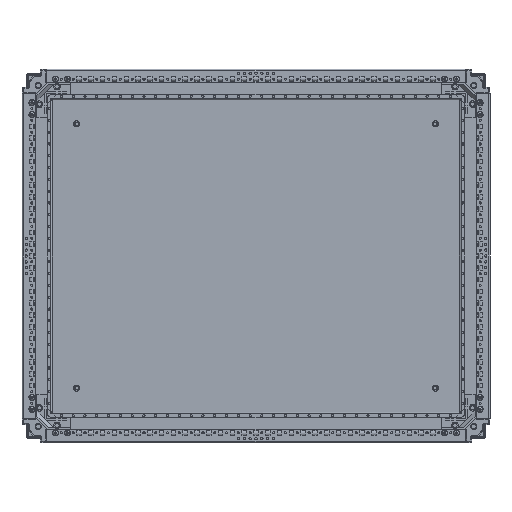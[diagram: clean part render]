
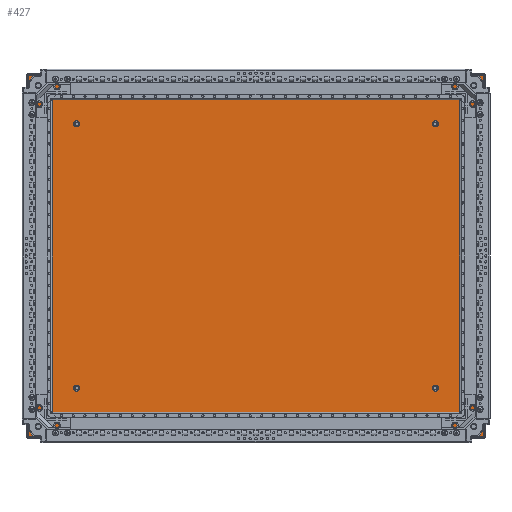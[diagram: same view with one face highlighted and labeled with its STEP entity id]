
A CAD part, front view. The second image highlights one B-rep face of the part: STEP entity #427.
In plain terms, the highlighted planar face has unit normal (0, -1, 0).
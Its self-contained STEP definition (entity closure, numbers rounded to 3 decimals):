
#427=ADVANCED_FACE('',(#3374,#3376,#3378,#3380,#3382,#3384,#3386,#3388,#3390),#3392,
.T.);
#3374=FACE_BOUND('',#3375,.T.);
#3375=EDGE_LOOP('',(#25849,#25850,#25851,#25852));
#3376=FACE_BOUND('',#3377,.T.);
#3377=EDGE_LOOP('',(#25853));
#3378=FACE_BOUND('',#3379,.T.);
#3379=EDGE_LOOP('',(#25854));
#3380=FACE_BOUND('',#3381,.T.);
#3381=EDGE_LOOP('',(#25855));
#3382=FACE_BOUND('',#3383,.T.);
#3383=EDGE_LOOP('',(#25856));
#3384=FACE_BOUND('',#3385,.T.);
#3385=EDGE_LOOP('',(#25857));
#3386=FACE_BOUND('',#3387,.T.);
#3387=EDGE_LOOP('',(#25858));
#3388=FACE_BOUND('',#3389,.T.);
#3389=EDGE_LOOP('',(#25859));
#3390=FACE_BOUND('',#3391,.T.);
#3391=EDGE_LOOP('',(#25860));
#3392=PLANE('',#3393);
#3393=AXIS2_PLACEMENT_3D('',#3394,#3395,#3396);
#3394=CARTESIAN_POINT('',(0.,-1.4,0.));
#3395=DIRECTION('',(0.,-1.,0.));
#3396=DIRECTION('',(-1.,0.,0.));
#25849=ORIENTED_EDGE('',*,*,#38457,.F.);
#25850=ORIENTED_EDGE('',*,*,#38458,.F.);
#25851=ORIENTED_EDGE('',*,*,#38459,.F.);
#25852=ORIENTED_EDGE('',*,*,#38460,.F.);
#25853=ORIENTED_EDGE('',*,*,#38330,.T.);
#25854=ORIENTED_EDGE('',*,*,#38332,.F.);
#25855=ORIENTED_EDGE('',*,*,#38334,.T.);
#25856=ORIENTED_EDGE('',*,*,#38336,.F.);
#25857=ORIENTED_EDGE('',*,*,#38342,.T.);
#25858=ORIENTED_EDGE('',*,*,#38340,.T.);
#25859=ORIENTED_EDGE('',*,*,#38344,.T.);
#25860=ORIENTED_EDGE('',*,*,#38338,.T.);
#38330=EDGE_CURVE('',#44651,#44651,#44652,.T.);
#38332=EDGE_CURVE('',#44655,#44655,#44656,.T.);
#38334=EDGE_CURVE('',#44659,#44659,#44660,.T.);
#38336=EDGE_CURVE('',#44663,#44663,#44664,.T.);
#38338=EDGE_CURVE('',#44667,#44667,#44668,.T.);
#38340=EDGE_CURVE('',#44671,#44671,#44672,.T.);
#38342=EDGE_CURVE('',#44675,#44675,#44676,.T.);
#38344=EDGE_CURVE('',#44679,#44679,#44680,.T.);
#38457=EDGE_CURVE('',#44873,#44874,#44875,.T.);
#38458=EDGE_CURVE('',#44876,#44873,#44877,.T.);
#38459=EDGE_CURVE('',#44878,#44876,#44879,.T.);
#38460=EDGE_CURVE('',#44874,#44878,#44880,.T.);
#44651=VERTEX_POINT('',#55350);
#44652=CIRCLE('',#55351,0.5);
#44655=VERTEX_POINT('',#55360);
#44656=CIRCLE('',#55361,0.5);
#44659=VERTEX_POINT('',#55370);
#44660=CIRCLE('',#55371,0.5);
#44663=VERTEX_POINT('',#55380);
#44664=CIRCLE('',#55381,0.5);
#44667=VERTEX_POINT('',#55390);
#44668=CIRCLE('',#55391,10.);
#44671=VERTEX_POINT('',#55400);
#44672=CIRCLE('',#55401,10.);
#44675=VERTEX_POINT('',#55410);
#44676=CIRCLE('',#55411,10.);
#44679=VERTEX_POINT('',#55420);
#44680=CIRCLE('',#55421,10.);
#44873=VERTEX_POINT('',#55965);
#44874=VERTEX_POINT('',#55966);
#44875=LINE('',#55967,#55968);
#44876=VERTEX_POINT('',#55970);
#44877=LINE('',#55971,#55972);
#44878=VERTEX_POINT('',#55974);
#44879=LINE('',#55975,#55976);
#44880=LINE('',#55978,#55979);
#55350=CARTESIAN_POINT('',(379.5,-1.4,-280.));
#55351=AXIS2_PLACEMENT_3D('',#55352,#55353,#55354);
#55352=CARTESIAN_POINT('',(380.,-1.4,-280.));
#55353=DIRECTION('',(0.,1.,0.));
#55354=DIRECTION('',(-1.,0.,0.));
#55360=CARTESIAN_POINT('',(-380.5,-1.4,-280.));
#55361=AXIS2_PLACEMENT_3D('',#55362,#55363,#55364);
#55362=CARTESIAN_POINT('',(-380.,-1.4,-280.));
#55363=DIRECTION('',(0.,-1.,0.));
#55364=DIRECTION('',(1.,0.,0.));
#55370=CARTESIAN_POINT('',(-380.5,-1.4,280.));
#55371=AXIS2_PLACEMENT_3D('',#55372,#55373,#55374);
#55372=CARTESIAN_POINT('',(-380.,-1.4,280.));
#55373=DIRECTION('',(0.,1.,0.));
#55374=DIRECTION('',(-1.,0.,0.));
#55380=CARTESIAN_POINT('',(379.5,-1.4,280.));
#55381=AXIS2_PLACEMENT_3D('',#55382,#55383,#55384);
#55382=CARTESIAN_POINT('',(380.,-1.4,280.));
#55383=DIRECTION('',(0.,-1.,0.));
#55384=DIRECTION('',(1.,0.,0.));
#55390=CARTESIAN_POINT('',(-471.4,-1.4,-361.4));
#55391=AXIS2_PLACEMENT_3D('',#55392,#55393,#55394);
#55392=CARTESIAN_POINT('',(-461.4,-1.4,-361.4));
#55393=DIRECTION('',(0.,1.,0.));
#55394=DIRECTION('',(-1.,0.,0.));
#55400=CARTESIAN_POINT('',(451.4,-1.4,361.4));
#55401=AXIS2_PLACEMENT_3D('',#55402,#55403,#55404);
#55402=CARTESIAN_POINT('',(461.4,-1.4,361.4));
#55403=DIRECTION('',(0.,1.,0.));
#55404=DIRECTION('',(-1.,0.,0.));
#55410=CARTESIAN_POINT('',(-471.4,-1.4,361.4));
#55411=AXIS2_PLACEMENT_3D('',#55412,#55413,#55414);
#55412=CARTESIAN_POINT('',(-461.4,-1.4,361.4));
#55413=DIRECTION('',(0.,1.,0.));
#55414=DIRECTION('',(-1.,0.,0.));
#55420=CARTESIAN_POINT('',(451.4,-1.4,-361.4));
#55421=AXIS2_PLACEMENT_3D('',#55422,#55423,#55424);
#55422=CARTESIAN_POINT('',(461.4,-1.4,-361.4));
#55423=DIRECTION('',(0.,1.,0.));
#55424=DIRECTION('',(-1.,0.,0.));
#55965=CARTESIAN_POINT('',(-483.,-1.4,-383.));
#55966=CARTESIAN_POINT('',(-483.,-1.4,383.));
#55967=CARTESIAN_POINT('',(-483.,-1.4,-383.));
#55968=VECTOR('',#55969,1.);
#55969=DIRECTION('',(0.,0.,1.));
#55970=CARTESIAN_POINT('',(483.,-1.4,-383.));
#55971=CARTESIAN_POINT('',(483.,-1.4,-383.));
#55972=VECTOR('',#55973,1.);
#55973=DIRECTION('',(-1.,0.,0.));
#55974=CARTESIAN_POINT('',(483.,-1.4,383.));
#55975=CARTESIAN_POINT('',(483.,-1.4,383.));
#55976=VECTOR('',#55977,1.);
#55977=DIRECTION('',(0.,0.,-1.));
#55978=CARTESIAN_POINT('',(-483.,-1.4,383.));
#55979=VECTOR('',#55980,1.);
#55980=DIRECTION('',(1.,0.,0.));
